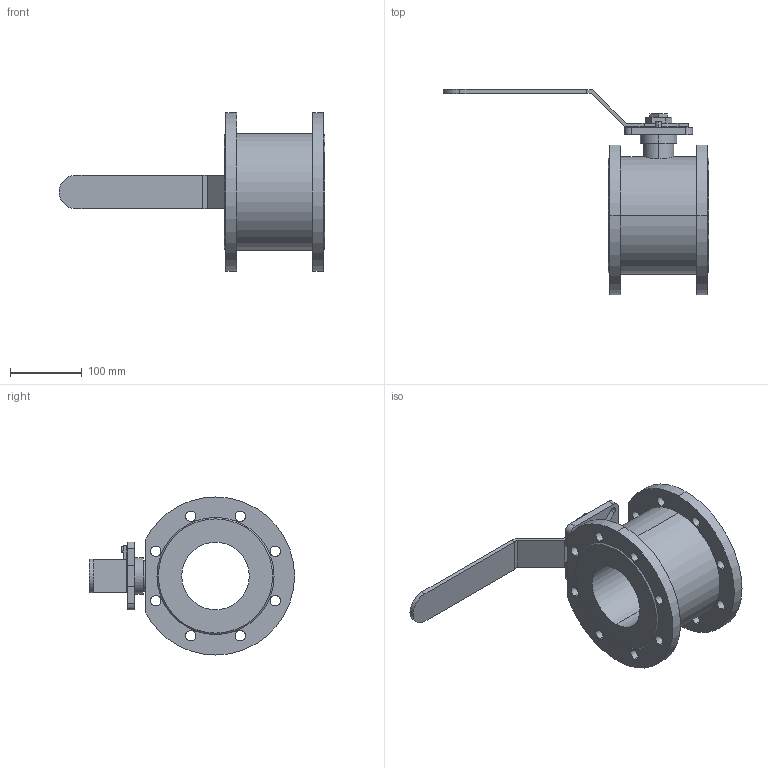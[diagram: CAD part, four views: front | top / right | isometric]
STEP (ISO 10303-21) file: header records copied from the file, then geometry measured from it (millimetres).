
FILE_DESCRIPTION (( 'STEP AP203' ), '1' );
FILE_NAME ('01.622I100X16CP.STEP', '2018-10-23T09:06:41', ( '' ), ( '' ), 'SwSTEP 2.0', 'SolidWorks 2014', '' );
FILE_SCHEMA (( 'CONFIG_CONTROL_DESIGN' ));
Length unit declared in the file: millimetre
Products named in the file (1): 01.622I100X16CP
Bounding box: 370 x 285.5 x 220 mm (x, y, z)
Volume: 2627859.1 mm3; surface area: 277925.4 mm2
Topology: 1 solids, 1 shells, 138 faces, 369 edges, 246 vertices
Faces by surface type: plane 68, cylinder 66, cone 4
Entity records: 4616 total; most frequent: CARTESIAN_POINT 862, DIRECTION 783, ORIENTED_EDGE 738, EDGE_CURVE 369, AXIS2_PLACEMENT_3D 277, VERTEX_POINT 246, VECTOR 229, LINE 229
